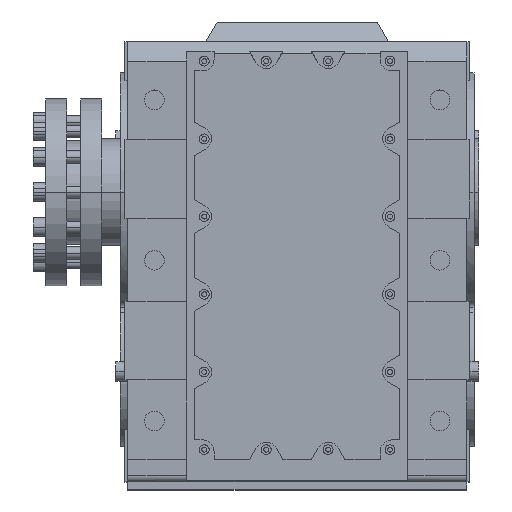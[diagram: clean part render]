
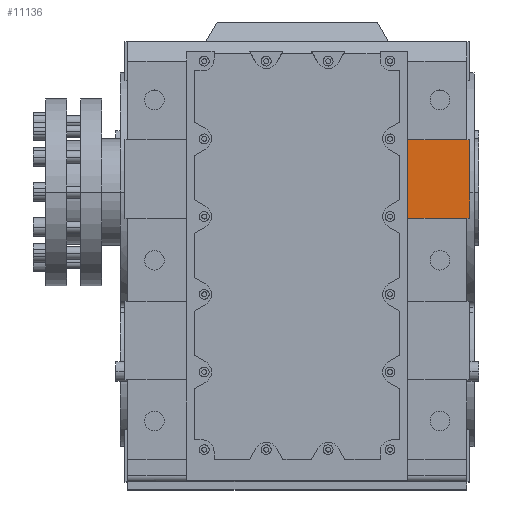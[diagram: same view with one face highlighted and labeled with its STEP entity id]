
A CAD part, top view. The second image highlights one B-rep face of the part: STEP entity #11136.
In plain terms, the highlighted planar face has unit normal (0, 0, 1).
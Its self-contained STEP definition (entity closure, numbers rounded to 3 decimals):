
#1393 = PLANE('',#1394);
#1394 = AXIS2_PLACEMENT_3D('',#1395,#1396,#1397);
#1395 = CARTESIAN_POINT('',(-290.,88.,315.));
#1396 = DIRECTION('',(0.,1.,0.));
#1397 = DIRECTION('',(0.,0.,1.));
#1453 = PLANE('',#1454);
#1454 = AXIS2_PLACEMENT_3D('',#1455,#1456,#1457);
#1455 = CARTESIAN_POINT('',(-290.,-44.,315.));
#1456 = DIRECTION('',(0.,-1.,0.));
#1457 = DIRECTION('',(0.,0.,-1.));
#2336 = PLANE('',#2337);
#2337 = AXIS2_PLACEMENT_3D('',#2338,#2339,#2340);
#2338 = CARTESIAN_POINT('',(290.,0.,0.));
#2339 = DIRECTION('',(1.,0.,0.));
#2340 = DIRECTION('',(0.,0.,-1.));
#5099 = VERTEX_POINT('',#5100);
#5100 = CARTESIAN_POINT('',(290.,-44.,302.5));
#5121 = EDGE_CURVE('',#5099,#5122,#5124,.T.);
#5122 = VERTEX_POINT('',#5123);
#5123 = CARTESIAN_POINT('',(285.,-44.,302.5));
#5124 = SURFACE_CURVE('',#5125,(#5129,#5136),.PCURVE_S1.);
#5125 = LINE('',#5126,#5127);
#5126 = CARTESIAN_POINT('',(186.,-44.,302.5));
#5127 = VECTOR('',#5128,1.);
#5128 = DIRECTION('',(-1.,0.,0.));
#5129 = PCURVE('',#1453,#5130);
#5130 = DEFINITIONAL_REPRESENTATION('',(#5131),#5135);
#5131 = LINE('',#5132,#5133);
#5132 = CARTESIAN_POINT('',(12.5,476.));
#5133 = VECTOR('',#5134,1.);
#5134 = DIRECTION('',(0.,-1.));
#5135 = ( GEOMETRIC_REPRESENTATION_CONTEXT(2) 
PARAMETRIC_REPRESENTATION_CONTEXT() REPRESENTATION_CONTEXT('2D SPACE',''
  ) );
#5136 = PCURVE('',#5137,#5142);
#5137 = PLANE('',#5138);
#5138 = AXIS2_PLACEMENT_3D('',#5139,#5140,#5141);
#5139 = CARTESIAN_POINT('',(-285.,-450.,302.5));
#5140 = DIRECTION('',(0.,0.,-1.));
#5141 = DIRECTION('',(-1.,0.,0.));
#5142 = DEFINITIONAL_REPRESENTATION('',(#5143),#5147);
#5143 = LINE('',#5144,#5145);
#5144 = CARTESIAN_POINT('',(-471.,406.));
#5145 = VECTOR('',#5146,1.);
#5146 = DIRECTION('',(1.,0.));
#5147 = ( GEOMETRIC_REPRESENTATION_CONTEXT(2) 
PARAMETRIC_REPRESENTATION_CONTEXT() REPRESENTATION_CONTEXT('2D SPACE',''
  ) );
#5207 = VERTEX_POINT('',#5208);
#5208 = CARTESIAN_POINT('',(285.,88.,302.5));
#5231 = EDGE_CURVE('',#5207,#5232,#5234,.T.);
#5232 = VERTEX_POINT('',#5233);
#5233 = CARTESIAN_POINT('',(290.,88.,302.5));
#5234 = SURFACE_CURVE('',#5235,(#5239,#5246),.PCURVE_S1.);
#5235 = LINE('',#5236,#5237);
#5236 = CARTESIAN_POINT('',(186.,88.,302.5));
#5237 = VECTOR('',#5238,1.);
#5238 = DIRECTION('',(1.,0.,0.));
#5239 = PCURVE('',#1393,#5240);
#5240 = DEFINITIONAL_REPRESENTATION('',(#5241),#5245);
#5241 = LINE('',#5242,#5243);
#5242 = CARTESIAN_POINT('',(-12.5,476.));
#5243 = VECTOR('',#5244,1.);
#5244 = DIRECTION('',(0.,1.));
#5245 = ( GEOMETRIC_REPRESENTATION_CONTEXT(2) 
PARAMETRIC_REPRESENTATION_CONTEXT() REPRESENTATION_CONTEXT('2D SPACE',''
  ) );
#5246 = PCURVE('',#5137,#5247);
#5247 = DEFINITIONAL_REPRESENTATION('',(#5248),#5252);
#5248 = LINE('',#5249,#5250);
#5249 = CARTESIAN_POINT('',(-471.,538.));
#5250 = VECTOR('',#5251,1.);
#5251 = DIRECTION('',(-1.,0.));
#5252 = ( GEOMETRIC_REPRESENTATION_CONTEXT(2) 
PARAMETRIC_REPRESENTATION_CONTEXT() REPRESENTATION_CONTEXT('2D SPACE',''
  ) );
#6409 = EDGE_CURVE('',#5232,#5099,#6410,.T.);
#6410 = SURFACE_CURVE('',#6411,(#6415,#6422),.PCURVE_S1.);
#6411 = LINE('',#6412,#6413);
#6412 = CARTESIAN_POINT('',(290.,0.,302.5));
#6413 = VECTOR('',#6414,1.);
#6414 = DIRECTION('',(0.,-1.,0.));
#6415 = PCURVE('',#2336,#6416);
#6416 = DEFINITIONAL_REPRESENTATION('',(#6417),#6421);
#6417 = LINE('',#6418,#6419);
#6418 = CARTESIAN_POINT('',(-302.5,0.));
#6419 = VECTOR('',#6420,1.);
#6420 = DIRECTION('',(0.,-1.));
#6421 = ( GEOMETRIC_REPRESENTATION_CONTEXT(2) 
PARAMETRIC_REPRESENTATION_CONTEXT() REPRESENTATION_CONTEXT('2D SPACE',''
  ) );
#6422 = PCURVE('',#5137,#6423);
#6423 = DEFINITIONAL_REPRESENTATION('',(#6424),#6428);
#6424 = LINE('',#6425,#6426);
#6425 = CARTESIAN_POINT('',(-575.,450.));
#6426 = VECTOR('',#6427,1.);
#6427 = DIRECTION('',(0.,-1.));
#6428 = ( GEOMETRIC_REPRESENTATION_CONTEXT(2) 
PARAMETRIC_REPRESENTATION_CONTEXT() REPRESENTATION_CONTEXT('2D SPACE',''
  ) );
#7607 = PLANE('',#7608);
#7608 = AXIS2_PLACEMENT_3D('',#7609,#7610,#7611);
#7609 = CARTESIAN_POINT('',(186.,88.,302.5));
#7610 = DIRECTION('',(0.,-1.,0.));
#7611 = DIRECTION('',(1.,0.,0.));
#8439 = PLANE('',#8440);
#8440 = AXIS2_PLACEMENT_3D('',#8441,#8442,#8443);
#8441 = CARTESIAN_POINT('',(186.,-316.,302.5));
#8442 = DIRECTION('',(-1.,0.,0.));
#8443 = DIRECTION('',(0.,0.,1.));
#11048 = PLANE('',#11049);
#11049 = AXIS2_PLACEMENT_3D('',#11050,#11051,#11052);
#11050 = CARTESIAN_POINT('',(186.,-44.,302.5));
#11051 = DIRECTION('',(0.,1.,0.));
#11052 = DIRECTION('',(-1.,0.,0.));
#11136 = ADVANCED_FACE('',(#11137),#5137,.F.);
#11137 = FACE_BOUND('',#11138,.T.);
#11138 = EDGE_LOOP('',(#11139,#11162,#11185,#11206,#11207,#11208));
#11139 = ORIENTED_EDGE('',*,*,#11140,.F.);
#11140 = EDGE_CURVE('',#11141,#5207,#11143,.T.);
#11141 = VERTEX_POINT('',#11142);
#11142 = CARTESIAN_POINT('',(186.,88.,302.5));
#11143 = SURFACE_CURVE('',#11144,(#11148,#11155),.PCURVE_S1.);
#11144 = LINE('',#11145,#11146);
#11145 = CARTESIAN_POINT('',(186.,88.,302.5));
#11146 = VECTOR('',#11147,1.);
#11147 = DIRECTION('',(1.,0.,0.));
#11148 = PCURVE('',#5137,#11149);
#11149 = DEFINITIONAL_REPRESENTATION('',(#11150),#11154);
#11150 = LINE('',#11151,#11152);
#11151 = CARTESIAN_POINT('',(-471.,538.));
#11152 = VECTOR('',#11153,1.);
#11153 = DIRECTION('',(-1.,0.));
#11154 = ( GEOMETRIC_REPRESENTATION_CONTEXT(2) 
PARAMETRIC_REPRESENTATION_CONTEXT() REPRESENTATION_CONTEXT('2D SPACE',''
  ) );
#11155 = PCURVE('',#7607,#11156);
#11156 = DEFINITIONAL_REPRESENTATION('',(#11157),#11161);
#11157 = LINE('',#11158,#11159);
#11158 = CARTESIAN_POINT('',(0.,0.));
#11159 = VECTOR('',#11160,1.);
#11160 = DIRECTION('',(1.,0.));
#11161 = ( GEOMETRIC_REPRESENTATION_CONTEXT(2) 
PARAMETRIC_REPRESENTATION_CONTEXT() REPRESENTATION_CONTEXT('2D SPACE',''
  ) );
#11162 = ORIENTED_EDGE('',*,*,#11163,.F.);
#11163 = EDGE_CURVE('',#11164,#11141,#11166,.T.);
#11164 = VERTEX_POINT('',#11165);
#11165 = CARTESIAN_POINT('',(186.,-44.,302.5));
#11166 = SURFACE_CURVE('',#11167,(#11171,#11178),.PCURVE_S1.);
#11167 = LINE('',#11168,#11169);
#11168 = CARTESIAN_POINT('',(186.,253.,302.5));
#11169 = VECTOR('',#11170,1.);
#11170 = DIRECTION('',(0.,1.,0.));
#11171 = PCURVE('',#5137,#11172);
#11172 = DEFINITIONAL_REPRESENTATION('',(#11173),#11177);
#11173 = LINE('',#11174,#11175);
#11174 = CARTESIAN_POINT('',(-471.,703.));
#11175 = VECTOR('',#11176,1.);
#11176 = DIRECTION('',(0.,1.));
#11177 = ( GEOMETRIC_REPRESENTATION_CONTEXT(2) 
PARAMETRIC_REPRESENTATION_CONTEXT() REPRESENTATION_CONTEXT('2D SPACE',''
  ) );
#11178 = PCURVE('',#8439,#11179);
#11179 = DEFINITIONAL_REPRESENTATION('',(#11180),#11184);
#11180 = LINE('',#11181,#11182);
#11181 = CARTESIAN_POINT('',(0.,569.));
#11182 = VECTOR('',#11183,1.);
#11183 = DIRECTION('',(0.,1.));
#11184 = ( GEOMETRIC_REPRESENTATION_CONTEXT(2) 
PARAMETRIC_REPRESENTATION_CONTEXT() REPRESENTATION_CONTEXT('2D SPACE',''
  ) );
#11185 = ORIENTED_EDGE('',*,*,#11186,.F.);
#11186 = EDGE_CURVE('',#5122,#11164,#11187,.T.);
#11187 = SURFACE_CURVE('',#11188,(#11192,#11199),.PCURVE_S1.);
#11188 = LINE('',#11189,#11190);
#11189 = CARTESIAN_POINT('',(186.,-44.,302.5));
#11190 = VECTOR('',#11191,1.);
#11191 = DIRECTION('',(-1.,0.,0.));
#11192 = PCURVE('',#5137,#11193);
#11193 = DEFINITIONAL_REPRESENTATION('',(#11194),#11198);
#11194 = LINE('',#11195,#11196);
#11195 = CARTESIAN_POINT('',(-471.,406.));
#11196 = VECTOR('',#11197,1.);
#11197 = DIRECTION('',(1.,0.));
#11198 = ( GEOMETRIC_REPRESENTATION_CONTEXT(2) 
PARAMETRIC_REPRESENTATION_CONTEXT() REPRESENTATION_CONTEXT('2D SPACE',''
  ) );
#11199 = PCURVE('',#11048,#11200);
#11200 = DEFINITIONAL_REPRESENTATION('',(#11201),#11205);
#11201 = LINE('',#11202,#11203);
#11202 = CARTESIAN_POINT('',(0.,0.));
#11203 = VECTOR('',#11204,1.);
#11204 = DIRECTION('',(1.,0.));
#11205 = ( GEOMETRIC_REPRESENTATION_CONTEXT(2) 
PARAMETRIC_REPRESENTATION_CONTEXT() REPRESENTATION_CONTEXT('2D SPACE',''
  ) );
#11206 = ORIENTED_EDGE('',*,*,#5121,.F.);
#11207 = ORIENTED_EDGE('',*,*,#6409,.F.);
#11208 = ORIENTED_EDGE('',*,*,#5231,.F.);
